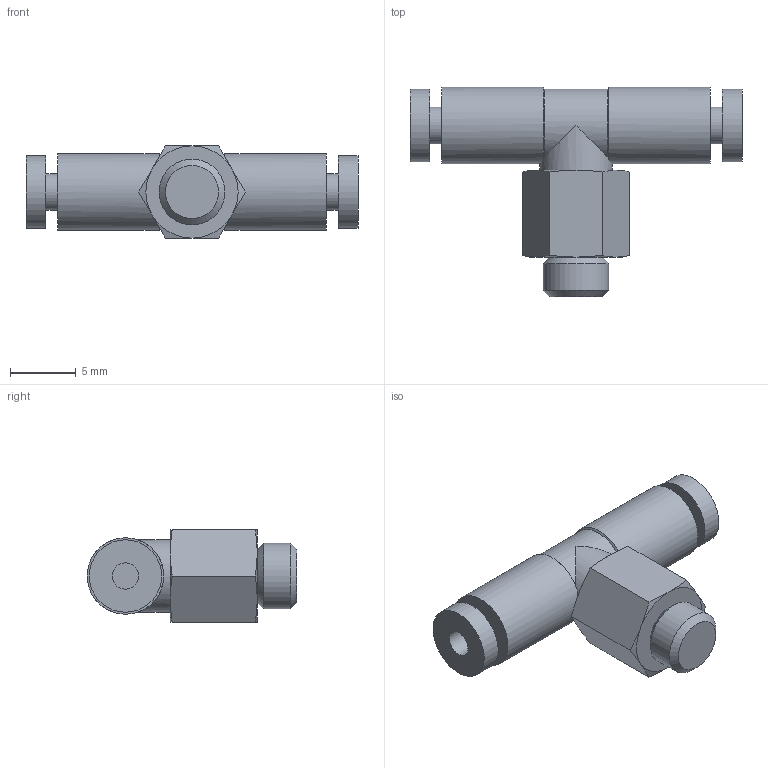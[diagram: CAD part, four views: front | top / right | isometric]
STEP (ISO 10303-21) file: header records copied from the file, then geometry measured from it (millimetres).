
FILE_DESCRIPTION(/* description */ ('STEP AP214'),/* implementation_level */ '2;1');
FILE_NAME(/* name */ 'KQ2T02-M5A',/* time_stamp */ '2023-03-09T07:32:35+01:00',/* author */ ('License CC BY-ND 4.0'),/* organization */ ('CADENAS'),/* preprocessor_version */ 'ST-DEVELOPER v18.102',/* originating_system */ 'PARTsolutions',/* authorisation */ ' ');
FILE_SCHEMA (('AUTOMOTIVE_DESIGN {1 0 10303 214 3 1 1}'));
Length unit declared in the file: millimetre
Products named in the file (1): KQ2T02-M5A
Bounding box: 25.2 x 15.9 x 7 mm (x, y, z)
Volume: 893.8 mm3; surface area: 978 mm2
Topology: 1 solids, 1 shells, 44 faces, 89 edges, 55 vertices
Faces by surface type: plane 17, cone 16, cylinder 11
Full cylindrical faces by diameter (mm): 2 x2, 2.8 x2, 5 x1, 5.5 x3, 5.8 x2
Entity records: 1132 total; most frequent: CARTESIAN_POINT 265, DIRECTION 174, ORIENTED_EDGE 150, AXIS2_PLACEMENT_3D 84, EDGE_CURVE 75, EDGE_LOOP 64, FACE_BOUND 64, VERTEX_POINT 53
